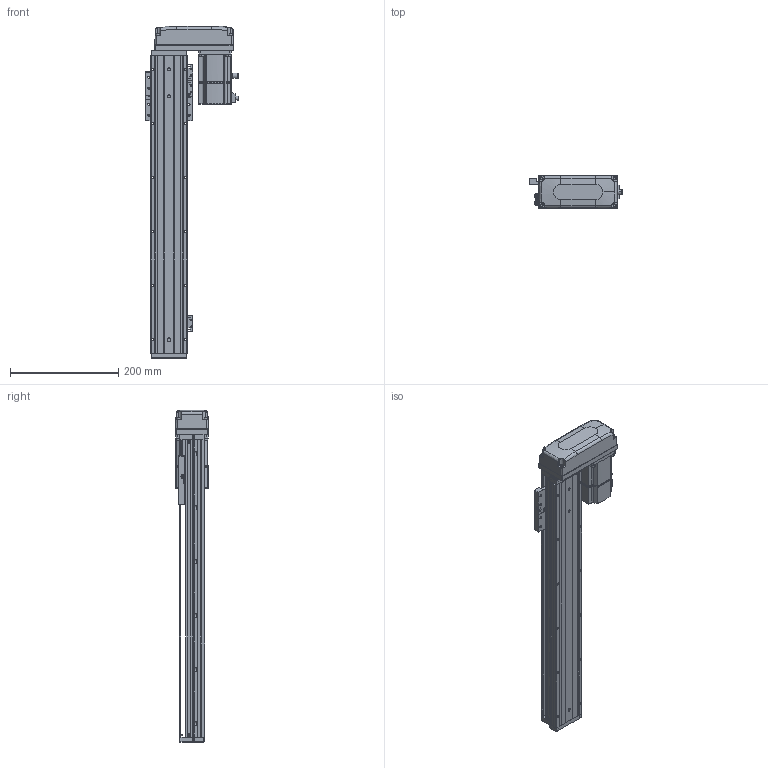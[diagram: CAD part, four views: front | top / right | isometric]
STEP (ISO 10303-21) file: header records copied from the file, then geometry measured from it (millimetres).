
FILE_DESCRIPTION (( 'STEP AP203' ), '1' );
FILE_NAME ('KTHAL60-450-BL-M20-C4L.step', '2022-12-16T02:06:28', ( '微软用户' ), ( '微软中国' ), 'SwSTEP 2.0', 'SolidWorks 2020', '' );
FILE_SCHEMA (( 'CONFIG_CONTROL_DESIGN' ));
Length unit declared in the file: millimetre
Products named in the file (17): KTHA60-005; GBT77-2000M3-3; GB¨uT 70.2-M3¡Á5_M3¡Á6; GBT 70.1-M3℅6; GBT 70.3-M3℅6; CTHA60-016; EE_SX911P_R; _X2_4E0983F1_X0_200W_1; KTHA60-001_550; CTHA60-017; CTHA60-015-4_CTHA60-015-4; KTHLA60-002; CTHA60-021; GTH80-026; KTHA60-004; GBT 70.1-M4×16; KTHAL60-450-BL-M20-C4L
Assembly tree (45 placements, depth 2):
  KTHAL60-450-BL-M20-C4L
    KTHA60-001_550
    KTHLA60-002
    KTHA60-004
    KTHA60-005
    GB¨uT 70.2-M3¡Á5_M3¡Á6  x5
    GBT 70.3-M3℅6  x4
    EE_SX911P_R  x3
    CTHA60-017  x3
    CTHA60-021  x2
    GBT 70.1-M4×16  x8
    GBT77-2000M3-3  x6
    GBT 70.1-M3℅6  x6
    CTHA60-016
    _X2_4E0983F1_X0_200W_1
    CTHA60-015-4_CTHA60-015-4
    GTH80-026
Bounding box: 172.2 x 62.42 x 614 mm (x, y, z)
Volume: 1759765.1 mm3; surface area: 370622.1 mm2
Topology: 48 solids, 48 shells, 2331 faces, 5548 edges, 3409 vertices
Faces by surface type: plane 1247, cylinder 617, cone 268, bspline 103, torus 82, sphere 14
Entity records: 45247 total; most frequent: CARTESIAN_POINT 10154, DIRECTION 6811, ORIENTED_EDGE 6720, EDGE_CURVE 3360, AXIS2_PLACEMENT_3D 2350, LINE 2111, VECTOR 2111, VERTEX_POINT 2093
